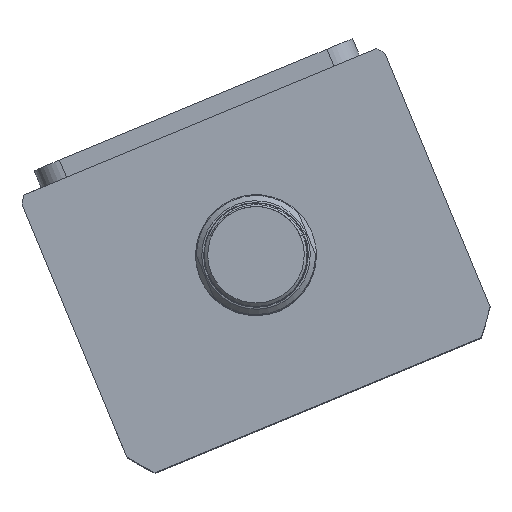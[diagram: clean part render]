
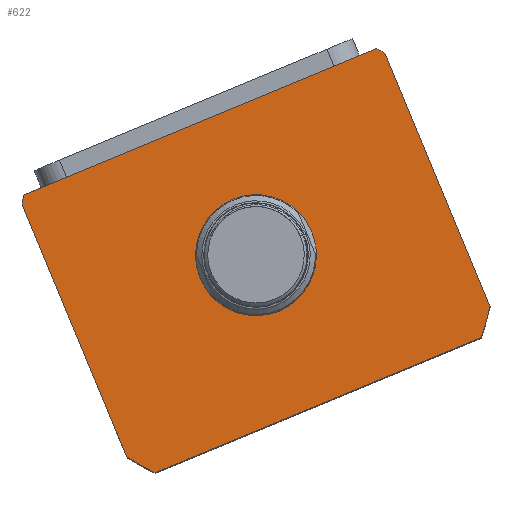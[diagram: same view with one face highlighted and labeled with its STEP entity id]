
A CAD part, top view. The second image highlights one B-rep face of the part: STEP entity #622.
In plain terms, the highlighted planar face has unit normal (0, 0, 1) as drawn and (0, 0, -1) by its records, which use the part's own axes.
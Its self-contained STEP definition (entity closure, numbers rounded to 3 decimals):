
#161 = LINE ( 'NONE', #28181, #21908 ) ;
#622 = ADVANCED_FACE ( 'NONE', ( #9979, #26679 ), #24430, .F. ) ;
#773 = CARTESIAN_POINT ( 'NONE',  ( -57., 44.5, 0. ) ) ;
#1143 = CIRCLE ( 'NONE', #19031, 17.5 ) ;
#1544 = EDGE_CURVE ( 'NONE', #4850, #9885, #1143, .T. ) ;
#1823 = VERTEX_POINT ( 'NONE', #16235 ) ;
#1959 = AXIS2_PLACEMENT_3D ( 'NONE', #24291, #11257, #26473 ) ;
#2032 = CARTESIAN_POINT ( 'NONE',  ( 57., 44.5, 0. ) ) ;
#2183 = CIRCLE ( 'NONE', #12595, 69.5 ) ;
#2515 = ORIENTED_EDGE ( 'NONE', *, *, #2651, .F. ) ;
#2555 = DIRECTION ( 'NONE',  ( 0., 0., 1. ) ) ;
#2651 = EDGE_CURVE ( 'NONE', #24253, #1823, #18417, .T. ) ;
#3736 = DIRECTION ( 'NONE',  ( 0., 0., 1. ) ) ;
#4850 = VERTEX_POINT ( 'NONE', #26160 ) ;
#5068 = EDGE_LOOP ( 'NONE', ( #10964, #18070 ) ) ;
#5609 = CARTESIAN_POINT ( 'NONE',  ( 0., 2.5, 0. ) ) ;
#5692 = DIRECTION ( 'NONE',  ( 0., 0., 1. ) ) ;
#5789 = DIRECTION ( 'NONE',  ( 1., 0., 0. ) ) ;
#6272 = EDGE_CURVE ( 'NONE', #20007, #8892, #161, .T. ) ;
#6314 = DIRECTION ( 'NONE',  ( 0., 0., 1. ) ) ;
#6982 = EDGE_CURVE ( 'NONE', #1823, #27992, #21550, .T. ) ;
#8594 = VERTEX_POINT ( 'NONE', #17532 ) ;
#8602 = ORIENTED_EDGE ( 'NONE', *, *, #28118, .F. ) ;
#8892 = VERTEX_POINT ( 'NONE', #12217 ) ;
#9390 = AXIS2_PLACEMENT_3D ( 'NONE', #22347, #26152, #26235 ) ;
#9421 = CARTESIAN_POINT ( 'NONE',  ( 57., 42.265, 0. ) ) ;
#9632 = VERTEX_POINT ( 'NONE', #20027 ) ;
#9885 = VERTEX_POINT ( 'NONE', #20352 ) ;
#9979 = FACE_BOUND ( 'NONE', #5068, .T. ) ;
#10247 = EDGE_CURVE ( 'NONE', #8892, #24920, #2183, .T. ) ;
#10959 = DIRECTION ( 'NONE',  ( 0., -1., 0. ) ) ;
#10964 = ORIENTED_EDGE ( 'NONE', *, *, #15671, .T. ) ;
#11257 = DIRECTION ( 'NONE',  ( 0., 0., 1. ) ) ;
#11324 = ORIENTED_EDGE ( 'NONE', *, *, #6982, .F. ) ;
#11986 = CARTESIAN_POINT ( 'NONE',  ( 0., 2.5, 0. ) ) ;
#12217 = CARTESIAN_POINT ( 'NONE',  ( -57., -37.265, 0. ) ) ;
#12595 = AXIS2_PLACEMENT_3D ( 'NONE', #16709, #3736, #18907 ) ;
#13233 = DIRECTION ( 'NONE',  ( 1., 0., 0. ) ) ;
#13307 = CARTESIAN_POINT ( 'NONE',  ( -57., 42.265, 0. ) ) ;
#13766 = DIRECTION ( 'NONE',  ( -1., 0., 0. ) ) ;
#14153 = DIRECTION ( 'NONE',  ( 1., 0., 0. ) ) ;
#15519 = CARTESIAN_POINT ( 'NONE',  ( 0., 2.5, 0. ) ) ;
#15671 = EDGE_CURVE ( 'NONE', #9885, #4850, #22122, .T. ) ;
#15728 = VECTOR ( 'NONE', #19391, 1000. ) ;
#16054 = ORIENTED_EDGE ( 'NONE', *, *, #24109, .F. ) ;
#16235 = CARTESIAN_POINT ( 'NONE',  ( 57., -37.265, 0. ) ) ;
#16709 = CARTESIAN_POINT ( 'NONE',  ( 0., 2.5, 0. ) ) ;
#17532 = CARTESIAN_POINT ( 'NONE',  ( -55.374, 44.5, 0. ) ) ;
#17566 = CIRCLE ( 'NONE', #22902, 69.5 ) ;
#17681 = DIRECTION ( 'NONE',  ( 1., 0., 0. ) ) ;
#17943 = AXIS2_PLACEMENT_3D ( 'NONE', #19323, #6314, #21535 ) ;
#18002 = CARTESIAN_POINT ( 'NONE',  ( -51.198, -44.5, 0. ) ) ;
#18070 = ORIENTED_EDGE ( 'NONE', *, *, #1544, .T. ) ;
#18417 = CIRCLE ( 'NONE', #17943, 69.5 ) ;
#18770 = CIRCLE ( 'NONE', #23940, 69.5 ) ;
#18907 = DIRECTION ( 'NONE',  ( 1., 0., 0. ) ) ;
#19031 = AXIS2_PLACEMENT_3D ( 'NONE', #5609, #5692, #5789 ) ;
#19323 = CARTESIAN_POINT ( 'NONE',  ( 0., 2.5, 0. ) ) ;
#19387 = EDGE_CURVE ( 'NONE', #8594, #20007, #17566, .T. ) ;
#19391 = DIRECTION ( 'NONE',  ( 0., 1., 0. ) ) ;
#19702 = CARTESIAN_POINT ( 'NONE',  ( -57., -44.5, 0. ) ) ;
#19840 = LINE ( 'NONE', #773, #25625 ) ;
#20007 = VERTEX_POINT ( 'NONE', #13307 ) ;
#20027 = CARTESIAN_POINT ( 'NONE',  ( 55.374, 44.5, 0. ) ) ;
#20204 = VECTOR ( 'NONE', #13233, 1000. ) ;
#20352 = CARTESIAN_POINT ( 'NONE',  ( 17.5, 2.5, 0. ) ) ;
#21535 = DIRECTION ( 'NONE',  ( 1., 0., 0. ) ) ;
#21550 = LINE ( 'NONE', #2032, #15728 ) ;
#21908 = VECTOR ( 'NONE', #10959, 1000. ) ;
#22122 = CIRCLE ( 'NONE', #1959, 17.5 ) ;
#22347 = CARTESIAN_POINT ( 'NONE',  ( 0., 0., 0. ) ) ;
#22902 = AXIS2_PLACEMENT_3D ( 'NONE', #15519, #2555, #17681 ) ;
#23232 = ORIENTED_EDGE ( 'NONE', *, *, #10247, .F. ) ;
#23940 = AXIS2_PLACEMENT_3D ( 'NONE', #11986, #27203, #14153 ) ;
#23944 = ORIENTED_EDGE ( 'NONE', *, *, #6272, .F. ) ;
#24109 = EDGE_CURVE ( 'NONE', #24920, #24253, #25991, .T. ) ;
#24253 = VERTEX_POINT ( 'NONE', #27015 ) ;
#24291 = CARTESIAN_POINT ( 'NONE',  ( 0., 2.5, 0. ) ) ;
#24430 = PLANE ( 'NONE',  #9390 ) ;
#24920 = VERTEX_POINT ( 'NONE', #18002 ) ;
#24979 = EDGE_CURVE ( 'NONE', #9632, #8594, #19840, .T. ) ;
#25285 = ORIENTED_EDGE ( 'NONE', *, *, #19387, .F. ) ;
#25625 = VECTOR ( 'NONE', #13766, 1000. ) ;
#25984 = ORIENTED_EDGE ( 'NONE', *, *, #24979, .F. ) ;
#25991 = LINE ( 'NONE', #19702, #20204 ) ;
#26152 = DIRECTION ( 'NONE',  ( 0., 0., 1. ) ) ;
#26160 = CARTESIAN_POINT ( 'NONE',  ( -17.5, 2.5, 0. ) ) ;
#26235 = DIRECTION ( 'NONE',  ( 1., 0., 0. ) ) ;
#26473 = DIRECTION ( 'NONE',  ( 1., 0., 0. ) ) ;
#26679 = FACE_OUTER_BOUND ( 'NONE', #27878, .T. ) ;
#27015 = CARTESIAN_POINT ( 'NONE',  ( 51.198, -44.5, 0. ) ) ;
#27203 = DIRECTION ( 'NONE',  ( 0., 0., 1. ) ) ;
#27878 = EDGE_LOOP ( 'NONE', ( #8602, #11324, #2515, #16054, #23232, #23944, #25285, #25984 ) ) ;
#27992 = VERTEX_POINT ( 'NONE', #9421 ) ;
#28118 = EDGE_CURVE ( 'NONE', #27992, #9632, #18770, .T. ) ;
#28181 = CARTESIAN_POINT ( 'NONE',  ( -57., 44.5, 0. ) ) ;
